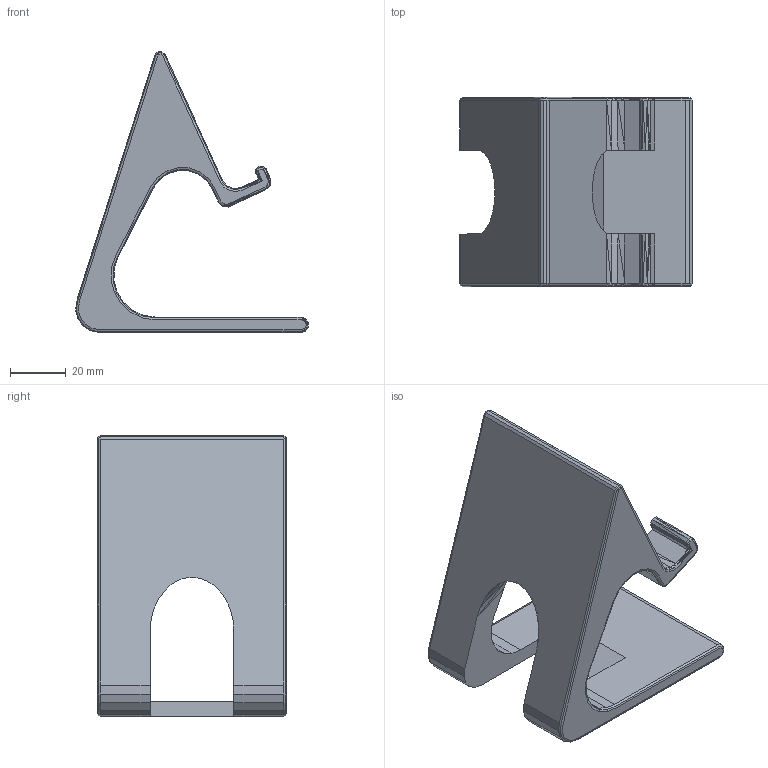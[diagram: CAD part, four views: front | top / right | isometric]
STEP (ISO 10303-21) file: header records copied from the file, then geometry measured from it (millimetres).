
FILE_DESCRIPTION(('Open CASCADE Model'),'2;1');
FILE_NAME('Open CASCADE Shape Model','2026-10-26T19:30:38',('Author'),( 'Open CASCADE'),'Open CASCADE STEP processor 7.9','Open CASCADE 7.9' ,'Unknown');
FILE_SCHEMA(('AUTOMOTIVE_DESIGN { 1 0 10303 214 1 1 1 1 }'));
Length unit declared in the file: millimetre
Products named in the file (1): Open CASCADE STEP translator 7.9 1
Bounding box: 83.82 x 68 x 101.27 mm (x, y, z)
Volume: 115471.7 mm3; surface area: 29516 mm2
Topology: 1 solids, 1 shells, 493 faces, 938 edges, 445 vertices
Faces by surface type: plane 493
Entity records: 23546 total; most frequent: CARTESIAN_POINT 3843, DIRECTION 3724, LINE 2736, VECTOR 2736, ORIENTED_EDGE 1876, PCURVE 1876, DEFINITIONAL_REPRESENTATION 1876, EDGE_CURVE 938
